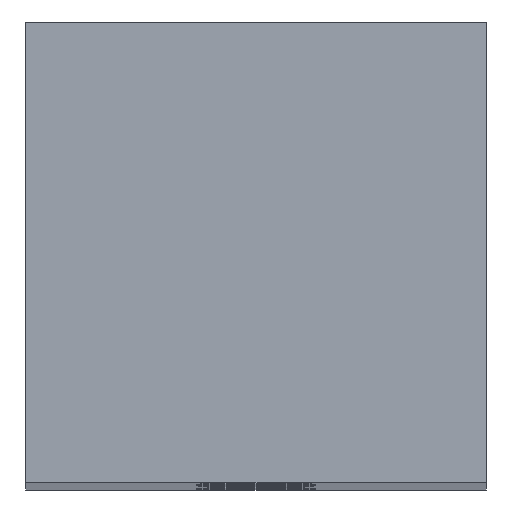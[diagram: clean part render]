
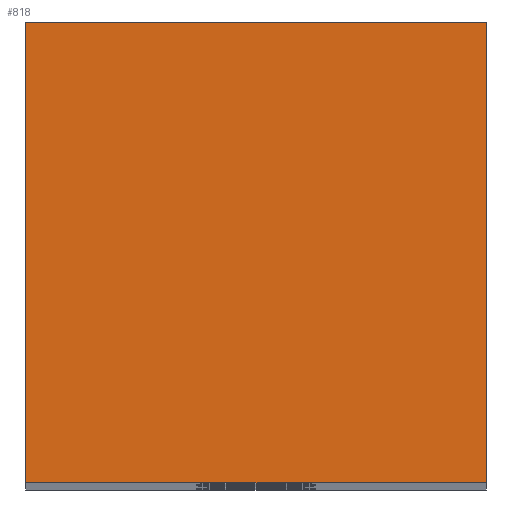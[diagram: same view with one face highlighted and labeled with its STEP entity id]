
A CAD part, top view. The second image highlights one B-rep face of the part: STEP entity #818.
In plain terms, the highlighted planar face has unit normal (0, 0, 1).
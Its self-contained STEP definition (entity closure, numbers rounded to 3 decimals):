
#16=LINE('',#1405,#28);
#24=LINE('',#1420,#36);
#25=LINE('',#1422,#37);
#26=LINE('',#1423,#38);
#28=VECTOR('',#1191,25.);
#36=VECTOR('',#1203,25.);
#37=VECTOR('',#1206,25.);
#38=VECTOR('',#1207,25.);
#212=FACE_OUTER_BOUND('',#338,.T.);
#338=EDGE_LOOP('',(#713,#714,#715,#716));
#494=VERTEX_POINT('',#1402);
#495=VERTEX_POINT('',#1404);
#499=VERTEX_POINT('',#1416);
#500=VERTEX_POINT('',#1418);
#570=EDGE_CURVE('',#494,#495,#16,.T.);
#578=EDGE_CURVE('',#499,#500,#24,.T.);
#579=EDGE_CURVE('',#494,#499,#25,.T.);
#580=EDGE_CURVE('',#495,#500,#26,.T.);
#713=ORIENTED_EDGE('',*,*,#579,.T.);
#714=ORIENTED_EDGE('',*,*,#578,.T.);
#715=ORIENTED_EDGE('',*,*,#580,.F.);
#716=ORIENTED_EDGE('',*,*,#570,.F.);
#761=PLANE('',#945);
#818=ADVANCED_FACE('',(#212),#761,.T.);
#945=AXIS2_PLACEMENT_3D('',#1421,#1204,#1205);
#1191=DIRECTION('',(0.,1.,0.));
#1203=DIRECTION('',(0.,1.,0.));
#1204=DIRECTION('center_axis',(0.,0.,1.));
#1205=DIRECTION('ref_axis',(1.,0.,0.));
#1206=DIRECTION('',(1.,0.,0.));
#1207=DIRECTION('',(1.,0.,0.));
#1402=CARTESIAN_POINT('',(-12.5,0.,112.5));
#1404=CARTESIAN_POINT('',(-12.5,25.,112.5));
#1405=CARTESIAN_POINT('',(-12.5,0.,112.5));
#1416=CARTESIAN_POINT('',(12.5,0.,112.5));
#1418=CARTESIAN_POINT('',(12.5,25.,112.5));
#1420=CARTESIAN_POINT('',(12.5,0.,112.5));
#1421=CARTESIAN_POINT('Origin',(-12.5,0.,112.5));
#1422=CARTESIAN_POINT('',(-12.5,0.,112.5));
#1423=CARTESIAN_POINT('',(-12.5,25.,112.5));
